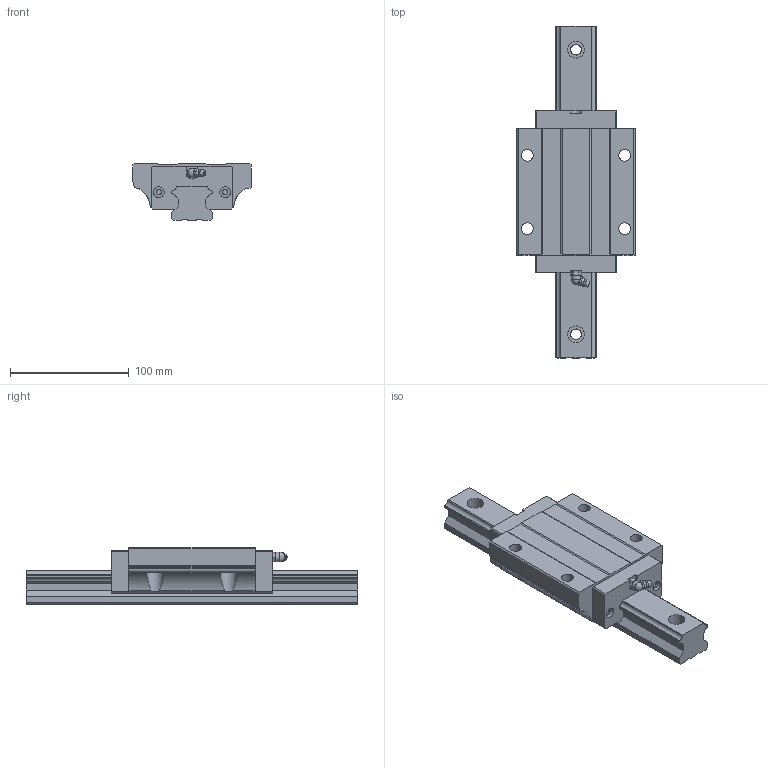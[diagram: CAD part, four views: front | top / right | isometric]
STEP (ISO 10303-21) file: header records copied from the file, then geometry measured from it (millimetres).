
FILE_DESCRIPTION(/* description */ (''),/* implementation_level */ '2;1');
FILE_NAME(/* name */ 'MSA35LA',/* time_stamp */ '2003-12-26T14:44:39+08:00',/* author */ (''),/* organization */ (''),/* preprocessor_version */ 'ST-DEVELOPER v9',/* originating_system */ '',/* authorisation */ '');
FILE_SCHEMA (('CONFIG_CONTROL_DESIGN'));
Length unit declared in the file: millimetre
Products named in the file (1): zircDFD6hm06
Bounding box: 100 x 280 x 48 mm (x, y, z)
Volume: 573739.1 mm3; surface area: 91393.9 mm2
Topology: 3 solids, 3 shells, 205 faces, 563 edges, 372 vertices
Faces by surface type: plane 145, cylinder 49, torus 7, sphere 2, cone 1, bspline 1
Full cylindrical faces by diameter (mm): 4.5 x4, 8 x1, 9 x8, 10 x4, 14 x4
Entity records: 6565 total; most frequent: CARTESIAN_POINT 1304, DIRECTION 1060, ORIENTED_EDGE 1058, EDGE_CURVE 529, VERTEX_POINT 364, LINE 356, VECTOR 356, AXIS2_PLACEMENT_3D 352
